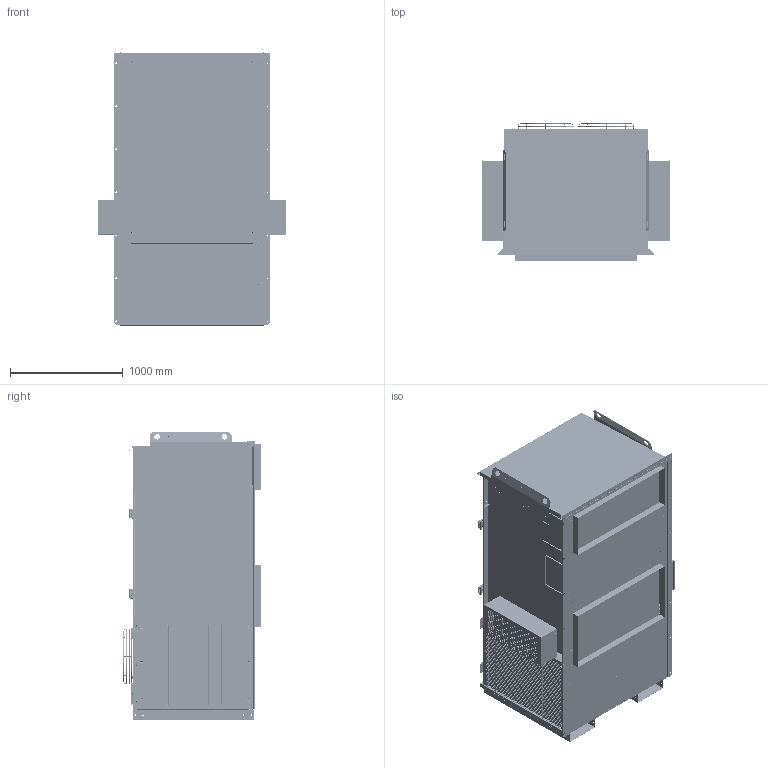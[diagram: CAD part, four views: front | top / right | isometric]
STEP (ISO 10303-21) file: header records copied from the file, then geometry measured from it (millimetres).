
FILE_DESCRIPTION (( 'STEP AP214' ), '1' );
FILE_NAME ('MGA3090 C 1.STEP', '2020-09-28T17:38:52', ( '' ), ( '' ), 'SwSTEP 2.0', 'SolidWorks 2020', '' );
FILE_SCHEMA (( 'AUTOMOTIVE_DESIGN' ));
Length unit declared in the file: inch
Products named in the file (54): MD09683; PD81397; MD09172; MD13586_MD13586-IN; 81397 PART 3; 60305; MD09219; MD09634; 81397 PART 2; MD09131; 92526; MD11715_MD11715; MD09633; MD09157; MD09145; ECONO HOOD ASSY LARGE; MD12224; MD09632; MD11716; 901442 RH TOP; MD09389; MD11715; MD09613; MD13590; supply retrun block off^ECUA 120; MD13587; MD13589_MD13586; MB09352; MD12220; 92417; MGA3090 C 1; MD13590_MD13586; MD09156; 901442 RH BOTTOM; MD09175; ND04668; 901442; 127009903; MD13587_MD13586; 60303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
Assembly tree (91 placements, depth 3):
  MGA3090 C 1
    MD09131
    MD09132  x3
    MD09145
    MD09156
    MD09146
    MD09157
    MD09172
    MD09175  x2
    MD09219
    MB09352
    MD11715_MD11715
      MD11715
      MD11716
    MD11715_MD11715
      MD11715
      MD11716
    60303
      127010502
    60305
      127009903
    PD81397
      81397 PART 2  x6
      81397 PART 3  x4
      PD81397
    PD81397
      81397 PART 2  x6
      81397 PART 3  x4
      PD81397
    92417  x4
    901442
      901442 RH BOTTOM
      901442 RH TOP
    901442
      901442 RH BOTTOM
      901442 RH TOP
    MD09613
    MD09614
    ECONO HOOD ASSY LARGE
      MD09633
      MD09634
      MD09631
      MD09632
      MD09683  x2
      92526
    ECONO HOOD ASSY LARGE
      MD09633
      MD09634
      MD09631
      MD09632
      MD09683  x2
      92526
    MD09389
    MD12220
    FAN GUARD AVHA90  x2
    MD12224
    MD13586_MD13586-IN
      MD13586
      ND04668
    MD13587_MD13586
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Bounding box: 1671.07 x 1219.79 x 2554.3 mm (x, y, z)
Volume: 2807143022.4 mm3; surface area: 63767723.1 mm2
Topology: 549 solids, 625 shells, 21040 faces, 56372 edges, 35630 vertices
Faces by surface type: cylinder 7653, bspline 5427, plane 4912, cone 2268, torus 684, sphere 96
Entity records: 580424 total; most frequent: CARTESIAN_POINT 150159, DIRECTION 65485, ORIENTED_EDGE 62843, EDGE_CURVE 32488, AXIS2_PLACEMENT_3D 26403, VERTEX_POINT 20296, EDGE_LOOP 16395, CIRCLE 15565
